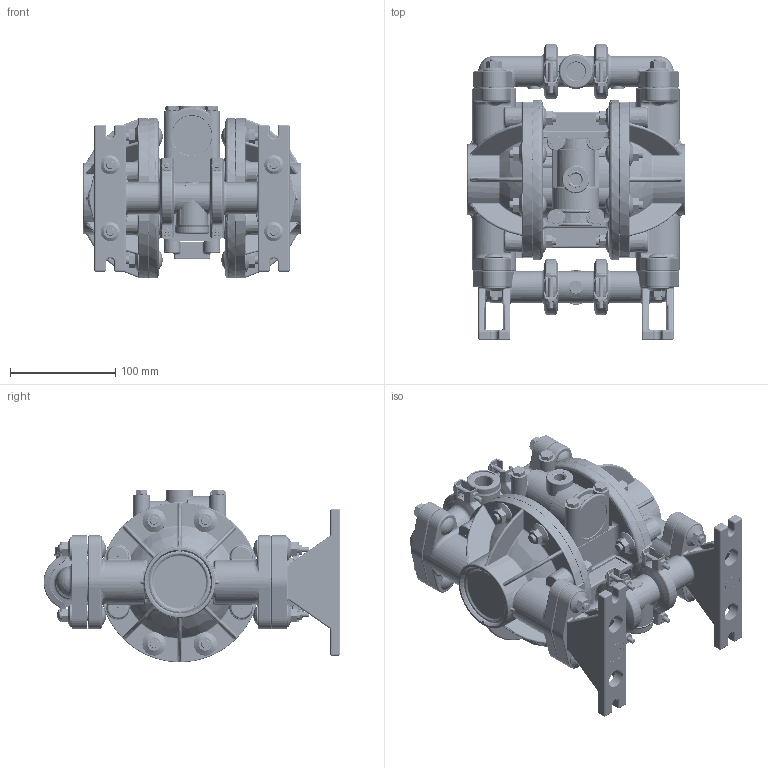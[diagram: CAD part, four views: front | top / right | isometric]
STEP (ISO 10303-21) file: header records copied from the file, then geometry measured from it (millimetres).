
FILE_DESCRIPTION((''),'2;1');
FILE_NAME('81434532_ASM_3_SW0001','2021-09-24T12:54:17',('irgbqd'),(''),'CREO PARAMETRIC BY PTC INC, 2020342','CREO PARAMETRIC BY PTC INC, 2020342','');
FILE_SCHEMA(('CONFIG_CONTROL_DESIGN'));
Products named in the file (1): 81434532_ASM_3_SW0001
Bounding box: 207.11 x 282.1 x 164.26 mm (x, y, z)
Volume: 2832436.4 mm3; surface area: 415226.2 mm2
Topology: 1 solids, 1 shells, 5438 faces, 13882 edges, 8437 vertices
Faces by surface type: plane 1750, cylinder 1347, bspline 776, torus 704, cone 672, sphere 189
Entity records: 221111 total; most frequent: CARTESIAN_POINT 97146, ORIENTED_EDGE 27472, DIRECTION 24284, EDGE_CURVE 13736, AXIS2_PLACEMENT_3D 9513, VERTEX_POINT 8437, EDGE_LOOP 5673, FACE_OUTER_BOUND 5438
